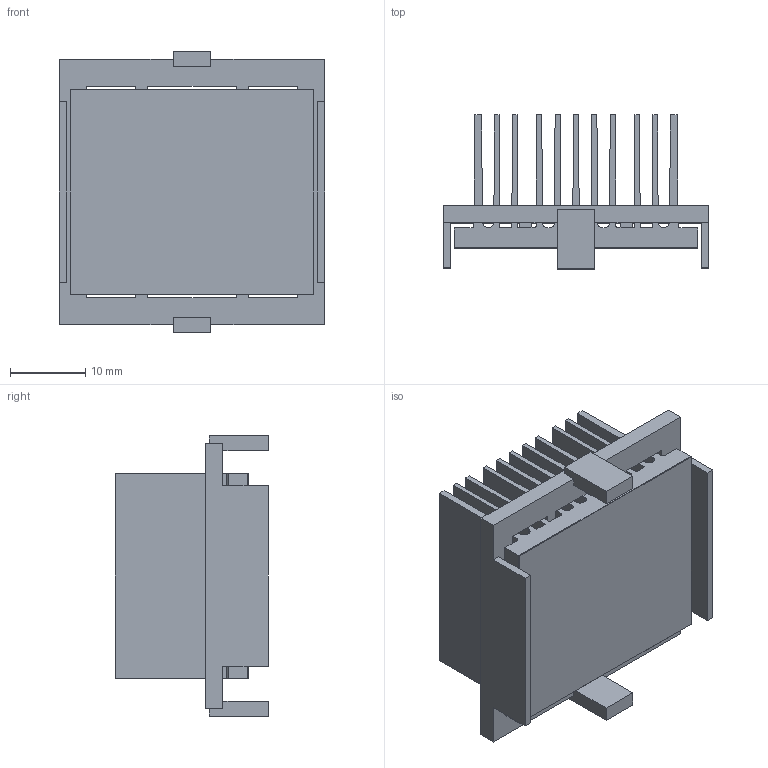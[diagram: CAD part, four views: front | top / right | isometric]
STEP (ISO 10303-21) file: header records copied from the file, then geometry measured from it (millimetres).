
FILE_DESCRIPTION (( 'STEP AP214' ), '1' );
FILE_NAME ('INH33001-18-2.6K33.STEP', '2023-02-17T18:14:16', ( '' ), ( '' ), 'SwSTEP 2.0', 'SolidWorks 2020', '' );
FILE_SCHEMA (( 'AUTOMOTIVE_DESIGN' ));
Length unit declared in the file: millimetre
Products named in the file (1): INH33001-18-2.6K33
Bounding box: 35.2 x 20.4 x 37.2 mm (x, y, z)
Volume: 7548.9 mm3; surface area: 15390.5 mm2
Topology: 3 solids, 3 shells, 126 faces, 360 edges, 240 vertices
Faces by surface type: plane 108, cylinder 18
Entity records: 5502 total; most frequent: CARTESIAN_POINT 727, ORIENTED_EDGE 720, DIRECTION 650, EDGE_CURVE 360, VECTOR 324, LINE 324, VERTEX_POINT 240, AXIS2_PLACEMENT_3D 163
